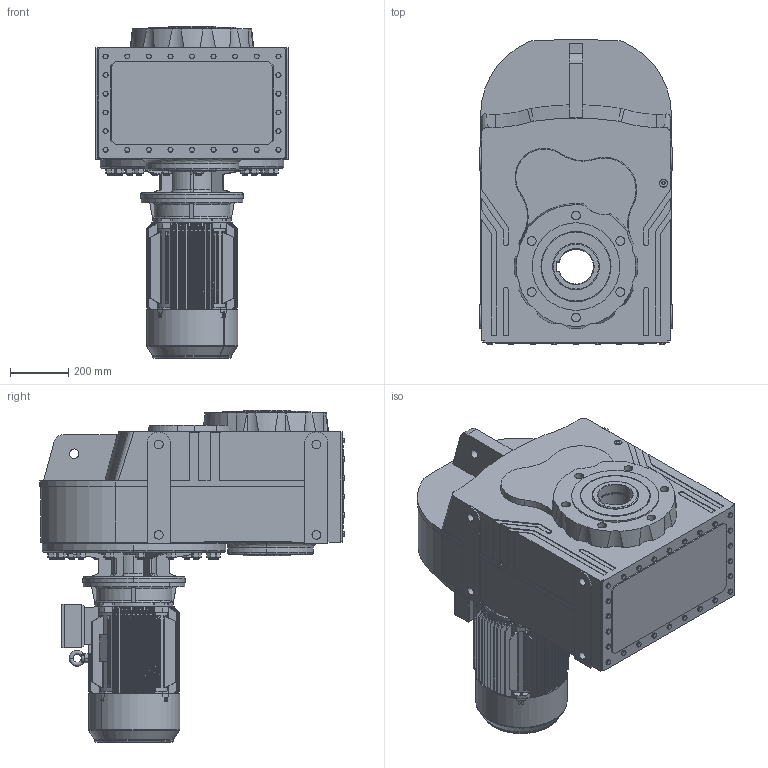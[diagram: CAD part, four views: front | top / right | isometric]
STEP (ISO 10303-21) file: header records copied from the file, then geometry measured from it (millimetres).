
FILE_DESCRIPTION (( 'STEP AP203' ), '1' );
FILE_NAME ('DV972-DV973-M3-160L.STEP', '2019-07-23T13:09:09', ( '' ), ( '' ), 'SwSTEP 2.0', 'SolidWorks 2012', '' );
FILE_SCHEMA (( 'CONFIG_CONTROL_DESIGN' ));
Length unit declared in the file: millimetre
Products named in the file (15): M3-160L-FF-B5; DV972-DV973-M3-160L; +¦i-MN2-160_-++ñ; Y2-160-2ª¥--®+_-++ñ; Eyebolts GB_GB_FASTENER_SCREWS_FRS M12N; Y2-160_shaft; Y2-160ñ»ª­+¿_-++ñ; Y2-160L+À+¿(B5)_-++ñ; Y2-160-4Ý¾6Ý¾8-ª+---®+_-++ñ; +ª+§ªiY2-160ñ»ª­_-++ñ; Y2-160-180ñ»ª­®+_-++ñ; 93160B5_Varsayìlan; DN_97_3_0_A-B16_B5_ML24A_0_0_0_0_0_0_0_0_0_0_0_0_M1; ML24A_Varsayìlan; D973_Varsayìlan
Assembly tree (14 placements, depth 4):
  DV972-DV973-M3-160L
    DN_97_3_0_A-B16_B5_ML24A_0_0_0_0_0_0_0_0_0_0_0_0_M1
      D973_Varsayìlan
      93160B5_Varsayìlan
      ML24A_Varsayìlan
    M3-160L-FF-B5
      +ª+§ªiY2-160ñ»ª­_-++ñ
        Y2-160-180ñ»ª­®+_-++ñ
        Y2-160ñ»ª­+¿_-++ñ
      Y2-160-4Ý¾6Ý¾8-ª+---®+_-++ñ
      Y2-160L+À+¿(B5)_-++ñ
      Eyebolts GB_GB_FASTENER_SCREWS_FRS M12N
      Y2-160-2ª¥--®+_-++ñ
      +¦i-MN2-160_-++ñ
      Y2-160_shaft
Bounding box: 660 x 1043.11 x 1138 mm (x, y, z)
Volume: 248207992.8 mm3; surface area: 7013553.7 mm2
Topology: 11 solids, 12 shells, 2842 faces, 7099 edges, 4410 vertices
Faces by surface type: plane 1046, cylinder 853, cone 666, bspline 170, torus 67, sphere 40
Entity records: 126042 total; most frequent: CARTESIAN_POINT 60244, ORIENTED_EDGE 14102, DIRECTION 12219, EDGE_CURVE 7051, AXIS2_PLACEMENT_3D 4685, VERTEX_POINT 4395, EDGE_LOOP 3128, VECTOR 2849
